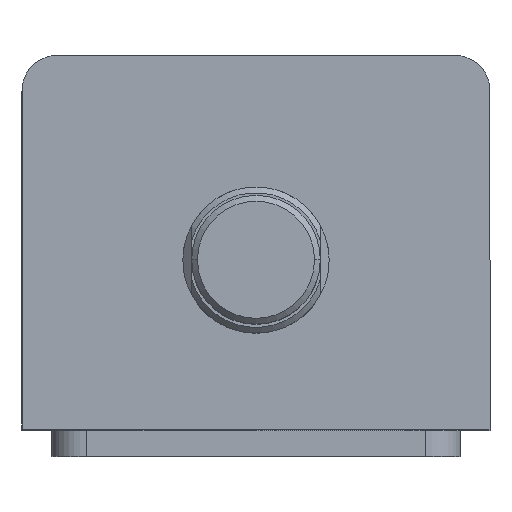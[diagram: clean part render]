
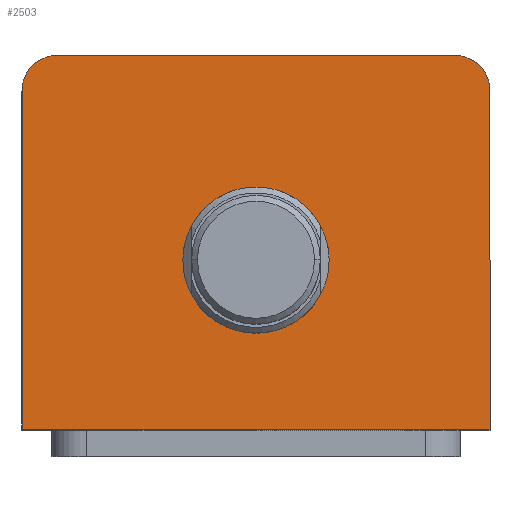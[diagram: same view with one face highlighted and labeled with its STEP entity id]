
A CAD part, top view. The second image highlights one B-rep face of the part: STEP entity #2503.
In plain terms, the highlighted planar face has unit normal (0, 0, 1).
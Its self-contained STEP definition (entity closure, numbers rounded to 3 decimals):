
#36 = ORIENTED_EDGE ( 'NONE', *, *, #1744, .F. ) ;
#37 = ORIENTED_EDGE ( 'NONE', *, *, #1645, .F. ) ;
#38 = ORIENTED_EDGE ( 'NONE', *, *, #1690, .T. ) ;
#52 = DIRECTION ( 'NONE',  ( 1., 0., 0. ) ) ;
#53 = DIRECTION ( 'NONE',  ( 0., 0., 1. ) ) ;
#55 = CARTESIAN_POINT ( 'NONE',  ( 34., 26., 85. ) ) ;
#81 = DIRECTION ( 'NONE',  ( 0., 1., 0. ) ) ;
#82 = CARTESIAN_POINT ( 'NONE',  ( 40., 32., 85. ) ) ;
#127 = DIRECTION ( 'NONE',  ( -1., 0., 0. ) ) ;
#128 = CARTESIAN_POINT ( 'NONE',  ( -40., 32., 85. ) ) ;
#174 = DIRECTION ( 'NONE',  ( 1., 0., 0. ) ) ;
#184 = CARTESIAN_POINT ( 'NONE',  ( -40., -32., 85. ) ) ;
#251 = DIRECTION ( 'NONE',  ( 1., 0., 0. ) ) ;
#252 = DIRECTION ( 'NONE',  ( 0., 0., 1. ) ) ;
#253 = CARTESIAN_POINT ( 'NONE',  ( 0., -3., 85. ) ) ;
#313 = VERTEX_POINT ( 'NONE', #2556 ) ;
#657 = CIRCLE ( 'NONE', #1860, 12.5 ) ;
#695 = LINE ( 'NONE', #184, #702 ) ;
#702 = VECTOR ( 'NONE', #174, 1000. ) ;
#728 = LINE ( 'NONE', #128, #731 ) ;
#731 = VECTOR ( 'NONE', #127, 1000. ) ;
#767 = LINE ( 'NONE', #82, #770 ) ;
#770 = VECTOR ( 'NONE', #81, 1000. ) ;
#774 = CIRCLE ( 'NONE', #1887, 6. ) ;
#787 = CIRCLE ( 'NONE', #1894, 6. ) ;
#793 = LINE ( 'NONE', #3327, #796 ) ;
#796 = VECTOR ( 'NONE', #3322, 1000. ) ;
#819 = CIRCLE ( 'NONE', #1896, 12.5 ) ;
#1273 = EDGE_LOOP ( 'NONE', ( #36, #37 ) ) ;
#1281 = EDGE_LOOP ( 'NONE', ( #38, #2502, #2501, #3198, #3197, #3199 ) ) ;
#1357 = VERTEX_POINT ( 'NONE', #2807 ) ;
#1365 = VERTEX_POINT ( 'NONE', #2799 ) ;
#1374 = VERTEX_POINT ( 'NONE', #2790 ) ;
#1379 = VERTEX_POINT ( 'NONE', #2785 ) ;
#1409 = VERTEX_POINT ( 'NONE', #2755 ) ;
#1413 = VERTEX_POINT ( 'NONE', #2751 ) ;
#1429 = VERTEX_POINT ( 'NONE', #2735 ) ;
#1645 = EDGE_CURVE ( 'NONE', #313, #1429, #657, .T. ) ;
#1673 = EDGE_CURVE ( 'NONE', #1379, #1374, #695, .T. ) ;
#1690 = EDGE_CURVE ( 'NONE', #1409, #1413, #728, .T. ) ;
#1710 = EDGE_CURVE ( 'NONE', #1374, #1365, #767, .T. ) ;
#1718 = EDGE_CURVE ( 'NONE', #1365, #1409, #774, .T. ) ;
#1727 = EDGE_CURVE ( 'NONE', #1413, #1357, #787, .T. ) ;
#1731 = EDGE_CURVE ( 'NONE', #1357, #1379, #793, .T. ) ;
#1744 = EDGE_CURVE ( 'NONE', #1429, #313, #819, .T. ) ;
#1860 = AXIS2_PLACEMENT_3D ( 'NONE', #253, #252, #251 ) ;
#1887 = AXIS2_PLACEMENT_3D ( 'NONE', #55, #53, #52 ) ;
#1894 = AXIS2_PLACEMENT_3D ( 'NONE', #3364, #3360, #3359 ) ;
#1896 = AXIS2_PLACEMENT_3D ( 'NONE', #3424, #3423, #3421 ) ;
#1947 = AXIS2_PLACEMENT_3D ( 'NONE', #2238, #2234, #2259 ) ;
#2234 = DIRECTION ( 'NONE',  ( 0., 0., 1. ) ) ;
#2238 = CARTESIAN_POINT ( 'NONE',  ( 0., 0., 85. ) ) ;
#2259 = DIRECTION ( 'NONE',  ( 1., 0., 0. ) ) ;
#2263 = PLANE ( 'NONE',  #1947 ) ;
#2501 = ORIENTED_EDGE ( 'NONE', *, *, #1731, .T. ) ;
#2502 = ORIENTED_EDGE ( 'NONE', *, *, #1727, .T. ) ;
#2503 = ADVANCED_FACE ( 'NONE', ( #2916, #2912 ), #2263, .T. ) ;
#2556 = CARTESIAN_POINT ( 'NONE',  ( -12.5, -3., 85. ) ) ;
#2735 = CARTESIAN_POINT ( 'NONE',  ( 12.5, -3., 85. ) ) ;
#2751 = CARTESIAN_POINT ( 'NONE',  ( -34., 32., 85. ) ) ;
#2755 = CARTESIAN_POINT ( 'NONE',  ( 34., 32., 85. ) ) ;
#2785 = CARTESIAN_POINT ( 'NONE',  ( -40., -32., 85. ) ) ;
#2790 = CARTESIAN_POINT ( 'NONE',  ( 40., -32., 85. ) ) ;
#2799 = CARTESIAN_POINT ( 'NONE',  ( 40., 26., 85. ) ) ;
#2807 = CARTESIAN_POINT ( 'NONE',  ( -40., 26., 85. ) ) ;
#2912 = FACE_OUTER_BOUND ( 'NONE', #1281, .T. ) ;
#2916 = FACE_BOUND ( 'NONE', #1273, .T. ) ;
#3197 = ORIENTED_EDGE ( 'NONE', *, *, #1710, .T. ) ;
#3198 = ORIENTED_EDGE ( 'NONE', *, *, #1673, .T. ) ;
#3199 = ORIENTED_EDGE ( 'NONE', *, *, #1718, .T. ) ;
#3322 = DIRECTION ( 'NONE',  ( 0., -1., 0. ) ) ;
#3327 = CARTESIAN_POINT ( 'NONE',  ( -40., 32., 85. ) ) ;
#3359 = DIRECTION ( 'NONE',  ( 1., 0., 0. ) ) ;
#3360 = DIRECTION ( 'NONE',  ( 0., 0., 1. ) ) ;
#3364 = CARTESIAN_POINT ( 'NONE',  ( -34., 26., 85. ) ) ;
#3421 = DIRECTION ( 'NONE',  ( 1., 0., 0. ) ) ;
#3423 = DIRECTION ( 'NONE',  ( 0., 0., 1. ) ) ;
#3424 = CARTESIAN_POINT ( 'NONE',  ( 0., -3., 85. ) ) ;
